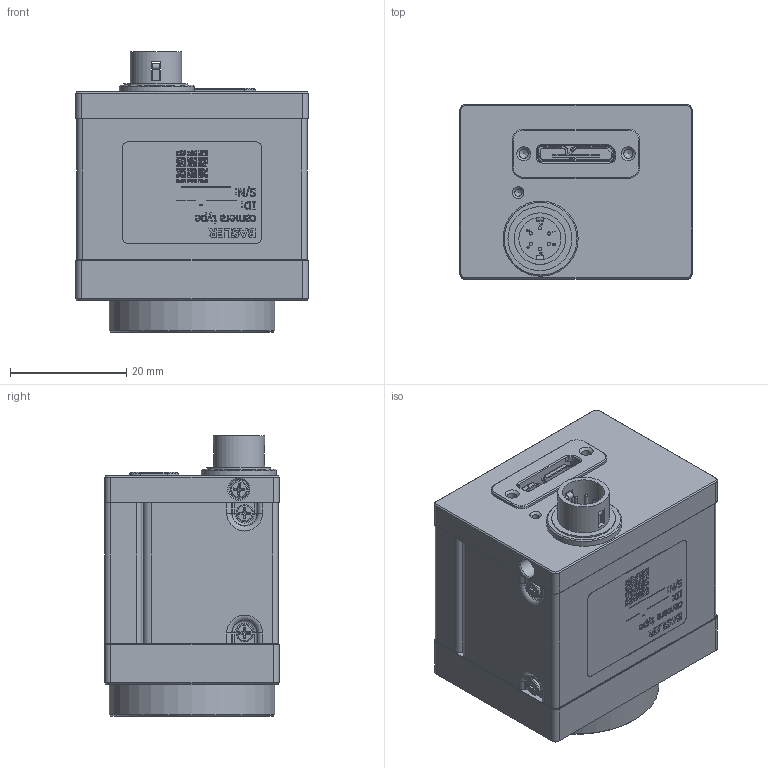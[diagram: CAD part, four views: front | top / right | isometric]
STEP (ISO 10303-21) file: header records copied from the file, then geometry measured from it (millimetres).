
FILE_DESCRIPTION(/* description */ ('Basler ace L USB3 C-Mount v02'),/* implementation_level */ '2;1');
FILE_NAME(/* name */ 'C:\cad\PSP2011Client\Work\149856132741IP02446101.stp',/* time_stamp */ '2017-06-27T13:02:11+02:00',/* author */ ('Cszallie'),/* organization */ (''),/* preprocessor_version */ 'ST-DEVELOPER v16.1',/* originating_system */ 'Autodesk Inventor 2016',/* authorisation */ '');
FILE_SCHEMA (('AUTOMOTIVE_DESIGN { 1 0 10303 214 3 1 1 }'));
Products named in the file (1): 149856132741IP02446101
Bounding box: 40 x 30 x 48.2 mm (x, y, z)
Volume: 39225.4 mm3; surface area: 10485.9 mm2
Topology: 6 solids, 13 shells, 1586 faces, 4443 edges, 2974 vertices
Faces by surface type: plane 992, cylinder 238, cone 151, bspline 128, torus 77
Full cylindrical faces by diameter (mm): 0.55 x6, 1.2 x1, 1.567 x2, 1.85 x4, 2.459 x3, 3 x9, 3.3 x4, 3.4 x1, 7.25 x1, 8.85 x1, 11 x1, 12.92 x1, 24.24 x1, 24.5 x1, 24.536 x1, 28.49 x1
Entity records: 57304 total; most frequent: CARTESIAN_POINT 16193, ORIENTED_EDGE 8798, DIRECTION 7279, EDGE_CURVE 4309, VERTEX_POINT 2943, LINE 2767, VECTOR 2767, AXIS2_PLACEMENT_3D 2256
